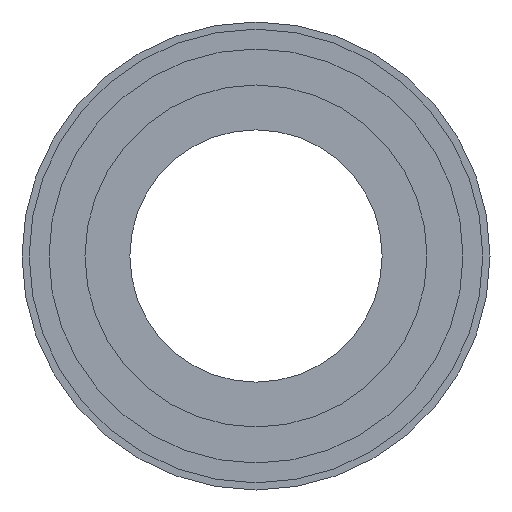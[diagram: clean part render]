
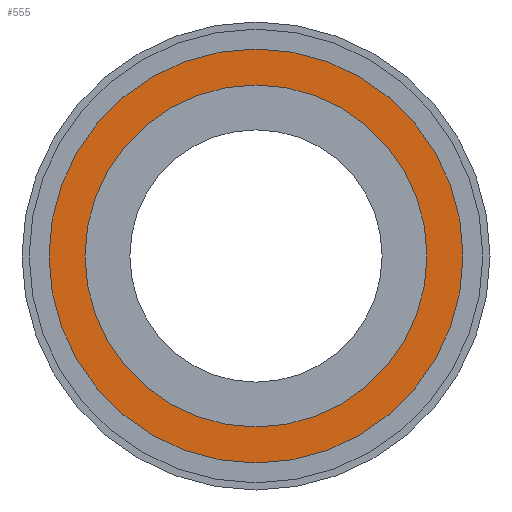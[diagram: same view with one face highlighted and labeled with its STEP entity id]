
A CAD part, front view. The second image highlights one B-rep face of the part: STEP entity #555.
In plain terms, the highlighted planar face has unit normal (0, -1, 0).
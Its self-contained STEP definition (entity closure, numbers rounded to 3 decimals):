
#1 = DIRECTION ( 'NONE',  ( 0., -1., 0. ) ) ;
#25 = EDGE_LOOP ( 'NONE', ( #174, #134 ) ) ;
#113 = CARTESIAN_POINT ( 'NONE',  ( 0., 38., 0. ) ) ;
#134 = ORIENTED_EDGE ( 'NONE', *, *, #494, .F. ) ;
#174 = ORIENTED_EDGE ( 'NONE', *, *, #1265, .F. ) ;
#180 = CARTESIAN_POINT ( 'NONE',  ( 0., 38., -38.05 ) ) ;
#193 = DIRECTION ( 'NONE',  ( 0., 0., -1. ) ) ;
#308 = AXIS2_PLACEMENT_3D ( 'NONE', #762, #1186, #193 ) ;
#320 = FACE_OUTER_BOUND ( 'NONE', #1063, .T. ) ;
#328 = CARTESIAN_POINT ( 'NONE',  ( 0., 38., 0. ) ) ;
#338 = CIRCLE ( 'NONE', #871, 38.05 ) ;
#348 = VERTEX_POINT ( 'NONE', #180 ) ;
#406 = DIRECTION ( 'NONE',  ( 0., -1., 0. ) ) ;
#494 = EDGE_CURVE ( 'NONE', #1298, #348, #1369, .T. ) ;
#504 = EDGE_CURVE ( 'NONE', #647, #691, #626, .T. ) ;
#550 = DIRECTION ( 'NONE',  ( 0., 0., -1. ) ) ;
#555 = ADVANCED_FACE ( 'NONE', ( #320, #745 ), #963, .T. ) ;
#626 = CIRCLE ( 'NONE', #1302, 57.5 ) ;
#647 = VERTEX_POINT ( 'NONE', #713 ) ;
#655 = CIRCLE ( 'NONE', #847, 57.5 ) ;
#656 = DIRECTION ( 'NONE',  ( 0., -1., 0. ) ) ;
#691 = VERTEX_POINT ( 'NONE', #814 ) ;
#713 = CARTESIAN_POINT ( 'NONE',  ( 0., 38., -57.5 ) ) ;
#745 = FACE_BOUND ( 'NONE', #25, .T. ) ;
#762 = CARTESIAN_POINT ( 'NONE',  ( 0., 38., -57.5 ) ) ;
#777 = AXIS2_PLACEMENT_3D ( 'NONE', #1428, #406, #866 ) ;
#814 = CARTESIAN_POINT ( 'NONE',  ( 0., 38., 57.5 ) ) ;
#847 = AXIS2_PLACEMENT_3D ( 'NONE', #328, #656, #1333 ) ;
#866 = DIRECTION ( 'NONE',  ( 0., 0., -1. ) ) ;
#871 = AXIS2_PLACEMENT_3D ( 'NONE', #113, #1, #1344 ) ;
#955 = DIRECTION ( 'NONE',  ( 0., -1., 0. ) ) ;
#963 = PLANE ( 'NONE',  #308 ) ;
#1063 = EDGE_LOOP ( 'NONE', ( #1378, #1185 ) ) ;
#1185 = ORIENTED_EDGE ( 'NONE', *, *, #1291, .T. ) ;
#1186 = DIRECTION ( 'NONE',  ( 0., -1., 0. ) ) ;
#1221 = CARTESIAN_POINT ( 'NONE',  ( 0., 38., 38.05 ) ) ;
#1265 = EDGE_CURVE ( 'NONE', #348, #1298, #338, .T. ) ;
#1291 = EDGE_CURVE ( 'NONE', #691, #647, #655, .T. ) ;
#1298 = VERTEX_POINT ( 'NONE', #1221 ) ;
#1301 = CARTESIAN_POINT ( 'NONE',  ( 0., 38., 0. ) ) ;
#1302 = AXIS2_PLACEMENT_3D ( 'NONE', #1301, #955, #550 ) ;
#1333 = DIRECTION ( 'NONE',  ( 0., 0., -1. ) ) ;
#1344 = DIRECTION ( 'NONE',  ( 0., 0., -1. ) ) ;
#1369 = CIRCLE ( 'NONE', #777, 38.05 ) ;
#1378 = ORIENTED_EDGE ( 'NONE', *, *, #504, .T. ) ;
#1428 = CARTESIAN_POINT ( 'NONE',  ( 0., 38., 0. ) ) ;
